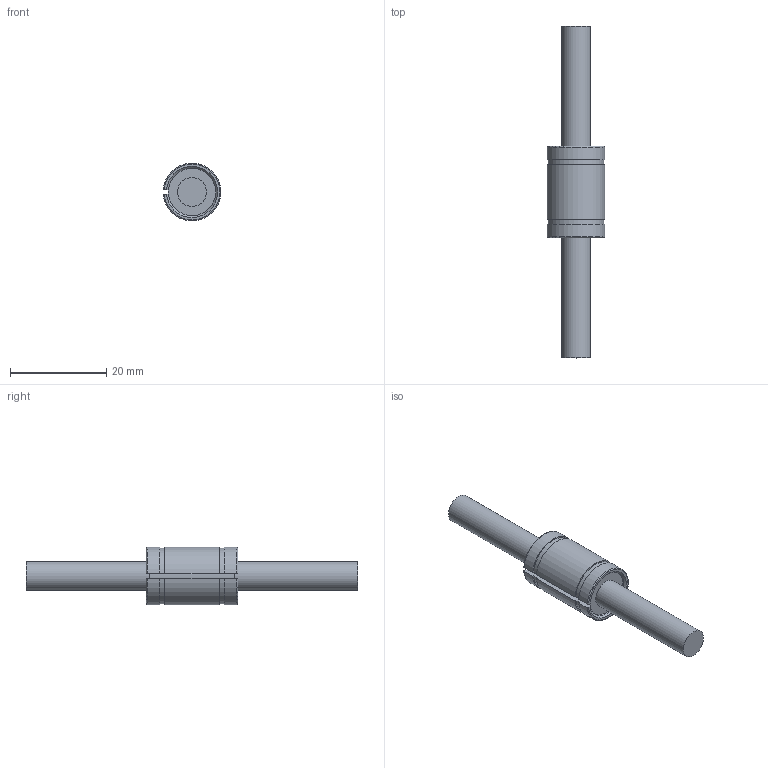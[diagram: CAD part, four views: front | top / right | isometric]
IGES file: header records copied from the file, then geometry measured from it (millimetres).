
Global section: file name: No Iges File Name specified; native system: Autodesk Inventor 2012; preprocessor: AutoDesk Inventor Iges Exporter R2012; author: user2; date: 20130206.101336; units: millimetre
Bounding box: 11.96 x 69 x 11.96 mm (x, y, z)
Volume: 3449.7 mm3; surface area: 2001.8 mm2
Topology: 1 solids, 1 shells, 26 faces, 64 edges, 42 vertices
Faces by surface type: plane 12, cylinder 8, revolution 4, torus 2
Full cylindrical faces by diameter (mm): 6 x2
